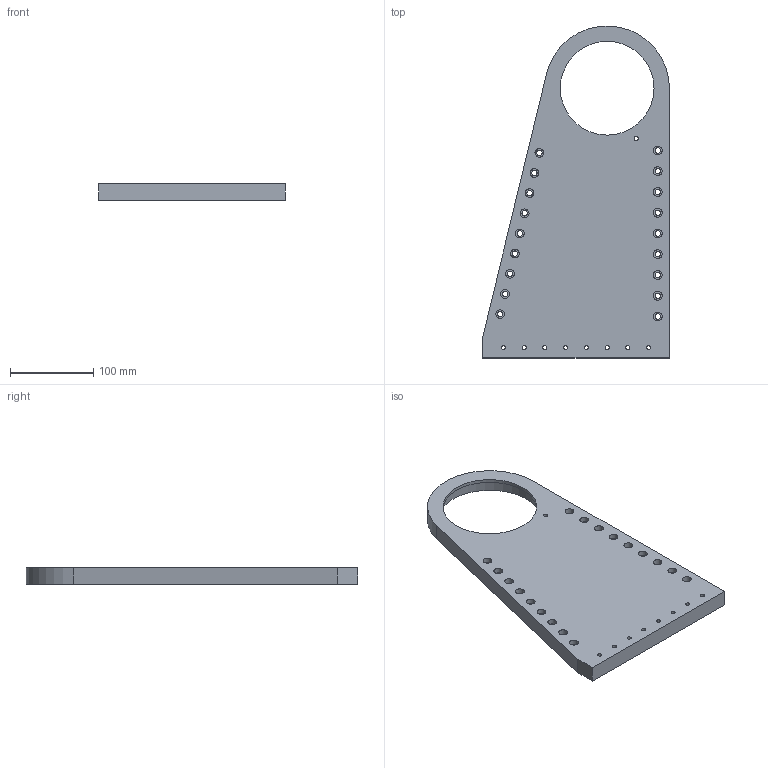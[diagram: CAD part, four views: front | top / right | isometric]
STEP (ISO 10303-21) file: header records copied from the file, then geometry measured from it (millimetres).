
FILE_DESCRIPTION(/* description */ (''),/* implementation_level */ '2;1');
FILE_NAME(/* name */ 'C:\Users\strothej\Documents\ActualDocuments\MicroscopeParts\TwoPhotonSystem\ScanningMechanics\v30\Drawings\Support_Upright_Plate.stp',/* time_stamp */ '2017-06-28T13:32:40-07:00',/* author */ ('strothej'),/* organization */ (''),/* preprocessor_version */ 'ST-DEVELOPER v16.1',/* originating_system */ 'Autodesk Inventor 2016',/* authorisation */ '');
FILE_SCHEMA (('AUTOMOTIVE_DESIGN { 1 0 10303 214 3 1 1 }'));
Length unit declared in the file: millimetre
Products named in the file (1): Support_Upright_Plate
Bounding box: 225 x 399.96 x 20 mm (x, y, z)
Volume: 1161639.5 mm3; surface area: 163467.1 mm2
Topology: 1 solids, 1 shells, 89 faces, 205 edges, 137 vertices
Faces by surface type: cylinder 56, plane 25, cone 8
Full cylindrical faces by diameter (mm): 3 x2, 4.134 x6, 4.917 x8, 5 x1, 6.5 x18, 10.5 x18, 113 x1, 125 x1
Entity records: 2247 total; most frequent: DIRECTION 417, CARTESIAN_POINT 335, ORIENTED_EDGE 250, EDGE_LOOP 227, AXIS2_PLACEMENT_3D 202, FACE_BOUND 138, EDGE_CURVE 125, VERTEX_POINT 120
